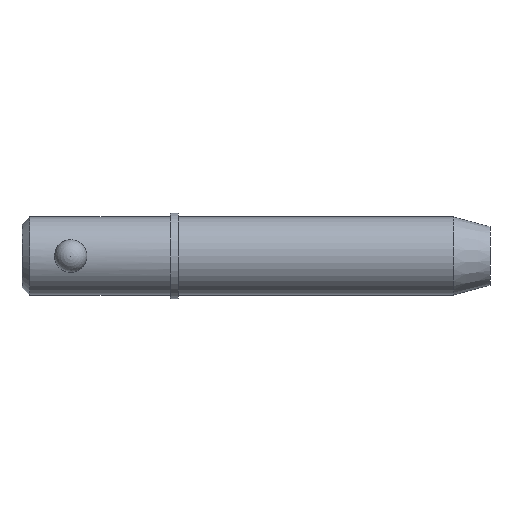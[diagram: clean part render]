
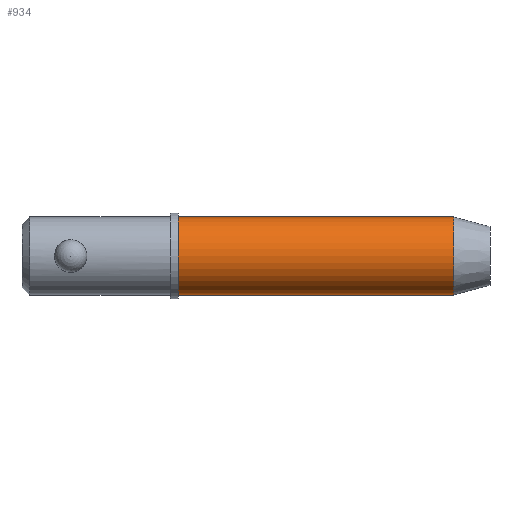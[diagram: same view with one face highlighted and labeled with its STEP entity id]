
A CAD part, front view. The second image highlights one B-rep face of the part: STEP entity #934.
In plain terms, the highlighted cylindrical face has radius 4.765 mm (diameter 9.53 mm), a partial arc.
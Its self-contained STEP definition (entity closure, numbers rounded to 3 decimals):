
#18 = CARTESIAN_POINT ( 'NONE',  ( 0., 0., -4.765 ) ) ;
#67 = VECTOR ( 'NONE', #98, 1000. ) ;
#79 = LINE ( 'NONE', #18, #67 ) ;
#94 = DIRECTION ( 'NONE',  ( 1., 0., 0. ) ) ;
#95 = CARTESIAN_POINT ( 'NONE',  ( 52.704, 0., -4.765 ) ) ;
#98 = DIRECTION ( 'NONE',  ( 1., 0., 0. ) ) ;
#104 = EDGE_LOOP ( 'NONE', ( #877, #883, #105, #279 ) ) ;
#105 = ORIENTED_EDGE ( 'NONE', *, *, #162, .T. ) ;
#162 = EDGE_CURVE ( 'NONE', #1018, #429, #79, .T. ) ;
#190 = CIRCLE ( 'NONE', #888, 4.765 ) ;
#255 = LINE ( 'NONE', #506, #704 ) ;
#259 = EDGE_CURVE ( 'NONE', #573, #555, #255, .T. ) ;
#260 = CYLINDRICAL_SURFACE ( 'NONE', #944, 4.765 ) ;
#279 = ORIENTED_EDGE ( 'NONE', *, *, #439, .F. ) ;
#332 = DIRECTION ( 'NONE',  ( 0., 0., -1. ) ) ;
#399 = DIRECTION ( 'NONE',  ( 0., 0., -1. ) ) ;
#400 = AXIS2_PLACEMENT_3D ( 'NONE', #813, #94, #399 ) ;
#429 = VERTEX_POINT ( 'NONE', #95 ) ;
#439 = EDGE_CURVE ( 'NONE', #555, #429, #190, .T. ) ;
#505 = DIRECTION ( 'NONE',  ( 1., 0., 0. ) ) ;
#506 = CARTESIAN_POINT ( 'NONE',  ( 0., 0., 4.765 ) ) ;
#555 = VERTEX_POINT ( 'NONE', #1006 ) ;
#573 = VERTEX_POINT ( 'NONE', #726 ) ;
#575 = CARTESIAN_POINT ( 'NONE',  ( 0., 0., 0. ) ) ;
#639 = CARTESIAN_POINT ( 'NONE',  ( 52.704, 0., 0. ) ) ;
#704 = VECTOR ( 'NONE', #899, 1000. ) ;
#726 = CARTESIAN_POINT ( 'NONE',  ( 19.05, 0., 4.765 ) ) ;
#731 = CARTESIAN_POINT ( 'NONE',  ( 19.05, 0., -4.765 ) ) ;
#738 = FACE_OUTER_BOUND ( 'NONE', #104, .T. ) ;
#791 = CIRCLE ( 'NONE', #400, 4.765 ) ;
#813 = CARTESIAN_POINT ( 'NONE',  ( 19.05, 0., 0. ) ) ;
#818 = DIRECTION ( 'NONE',  ( 0., 0., -1. ) ) ;
#877 = ORIENTED_EDGE ( 'NONE', *, *, #259, .F. ) ;
#883 = ORIENTED_EDGE ( 'NONE', *, *, #1009, .T. ) ;
#888 = AXIS2_PLACEMENT_3D ( 'NONE', #639, #991, #818 ) ;
#899 = DIRECTION ( 'NONE',  ( 1., 0., 0. ) ) ;
#934 = ADVANCED_FACE ( 'NONE', ( #738 ), #260, .T. ) ;
#944 = AXIS2_PLACEMENT_3D ( 'NONE', #575, #505, #332 ) ;
#991 = DIRECTION ( 'NONE',  ( 1., 0., 0. ) ) ;
#1006 = CARTESIAN_POINT ( 'NONE',  ( 52.704, 0., 4.765 ) ) ;
#1009 = EDGE_CURVE ( 'NONE', #573, #1018, #791, .T. ) ;
#1018 = VERTEX_POINT ( 'NONE', #731 ) ;
